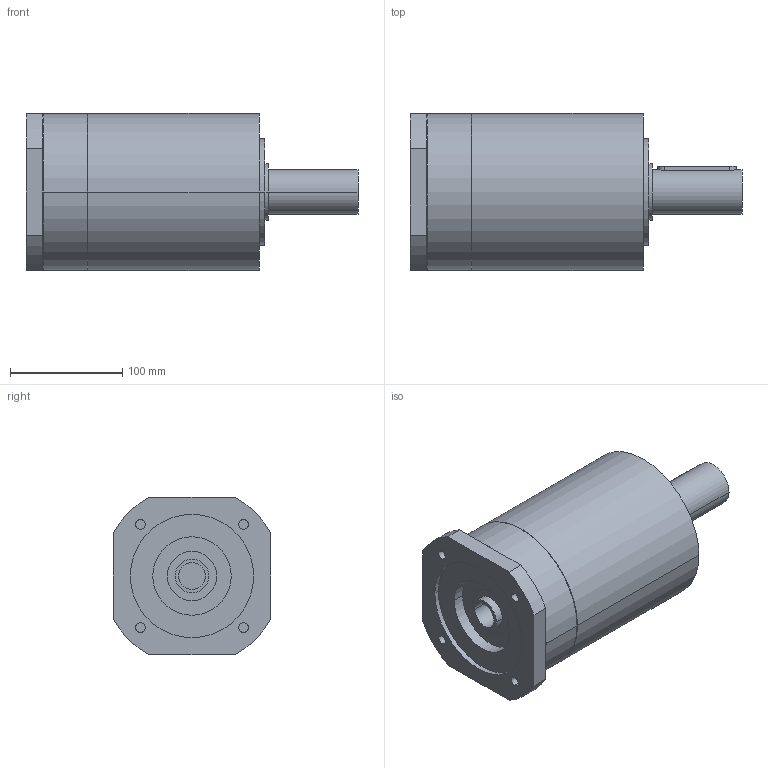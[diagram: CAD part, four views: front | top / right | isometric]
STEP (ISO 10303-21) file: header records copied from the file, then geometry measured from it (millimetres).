
FILE_DESCRIPTION(('CoCreate Modeling STEP Export'),'2;1');
FILE_NAME('GPR150_ig-9-12-16-20-28-35_40_B14_24_P04.stp','2014-08-19T17:03:30',(''),(''),'CoCreate Modeling STEP processor for AP214 (Solid Model)','CoCreate Modeling 16.00C 25-Feb-2009 (C) Parametric Technology GmbH','');
FILE_SCHEMA(('AUTOMOTIVE_DESIGN { 1 0 10303 214 1 1 1 1 }'));
Length unit declared in the file: millimetre
Products named in the file (2): GPR150_ig-9-12-16-20-28-35_40_B14_24_P04
Assembly tree (1 placements, depth 2):
  GPR150_ig-9-12-16-20-28-35_40_B14_24_P04
    GPR150_ig-9-12-16-20-28-35_40_B14_24_P04
Bounding box: 296 x 140 x 140 mm (x, y, z)
Volume: 3263356.2 mm3; surface area: 157573 mm2
Topology: 1 solids, 1 shells, 89 faces, 238 edges, 164 vertices
Faces by surface type: cylinder 52, plane 31, cone 6
Entity records: 2406 total; most frequent: ORIENTED_EDGE 472, CARTESIAN_POINT 452, DIRECTION 324, EDGE_CURVE 236, VERTEX_POINT 164, AXIS2_PLACEMENT_3D 124, EDGE_LOOP 112, FACE_OUTER_BOUND 89
